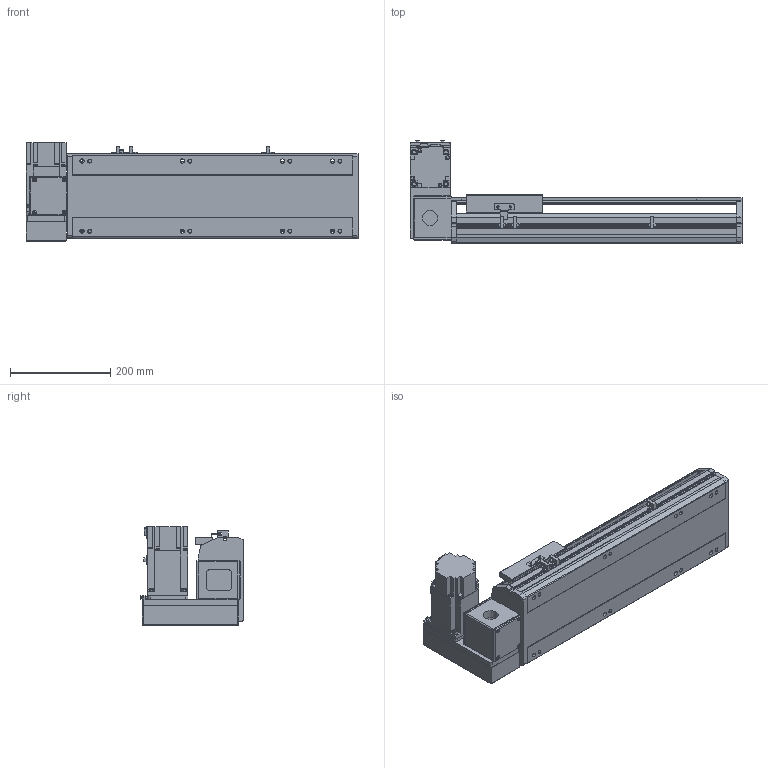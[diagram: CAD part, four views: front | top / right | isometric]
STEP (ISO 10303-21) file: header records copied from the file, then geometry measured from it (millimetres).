
FILE_DESCRIPTION( ( 'STEP AP214' ), '1' );
FILE_NAME( 'x:/temp/worker_4/temp/exporttempdir_2248_425_dZA2x/format_0/PBS170-P40-S300-LU-T75-C1-N(0).stp', '2022-06-07T08:19:35', ( 'License CC BY-ND 4.0' ), ( 'CADENAS' ), ' ', 'PARTsolutions', ' ' );
FILE_SCHEMA( ( 'AUTOMOTIVE_DESIGN { 1 0 10303 214 1 1 1 1 }' ) );
Length unit declared in the file: millimetre
Products named in the file (7): PBS170-P40-S300-LU-T75-C1-N(0); _PBS170-S300()_body; _PBS170T-LU_motors; _T75-p1; _PBS170_sliser; _PBS170_plant; _PBS170_sensor
Assembly tree (8 placements, depth 2):
  PBS170-P40-S300-LU-T75-C1-N(0)
    _PBS170-S300()_body
    _PBS170T-LU_motors
    _T75-p1
    _PBS170_sliser
    _PBS170_plant
    _PBS170_sensor  x3
Bounding box: 663 x 206 x 197.3 mm (x, y, z)
Volume: 6001633.9 mm3; surface area: 838828 mm2
Topology: 8 solids, 8 shells, 1018 faces, 2715 edges, 1770 vertices
Faces by surface type: plane 663, cylinder 307, cone 38, sphere 8, torus 2
Full cylindrical faces by diameter (mm): 3.242 x4, 4 x2, 4.4 x4, 4.5 x6, 4.917 x4, 6 x9, 6.647 x16, 7 x2, 7.5 x4, 8 x8, 8.5 x8, 10 x4, 10.5 x8, 11 x2, 30 x2, 40 x1, 70 x1
Entity records: 37172 total; most frequent: CARTESIAN_POINT 5549, DIRECTION 5020, ORIENTED_EDGE 4788, EDGE_CURVE 2394, AXIS2_PLACEMENT_3D 1717, VERTEX_POINT 1634, LINE 1586, VECTOR 1586
